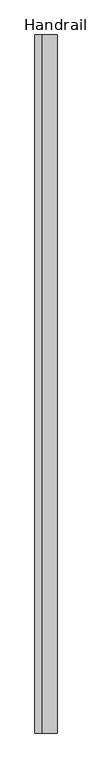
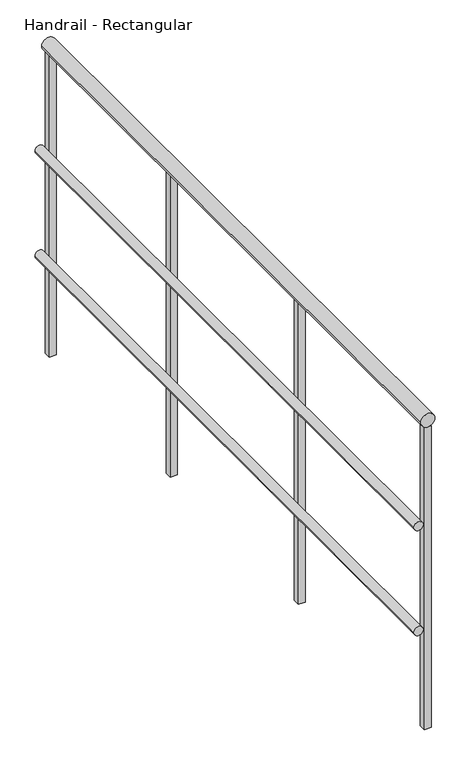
"""IFC4 building model written with IfcOpenShell, lengths in millimetres: railing geometry, Handrail - Rectangular."""

from ifc_helpers import new_model, si_unit, point, frame, frame_2d, origin, place, context, project, spatial, polyline, circle_curve, trimmed, segment, composite_curve, outline, extrude, source, transform, mapped, element, save


def handrail_rectangular_d5c45918(model_context):
    return source(origin(), model_context, "Body", "SweptSolid", [
        extrude(outline(composite_curve([segment(trimmed(circle_curve(frame_2d((9740.9, -32192.8839563)), 12.7), [point((9740.9, -32205.5839563))], [point((9740.9, -32180.1839563))], False, "CARTESIAN"), True, "CONTINUOUS"), segment(trimmed(circle_curve(frame_2d((9740.9, -32192.8839563)), 12.7), [point((9740.9, -32180.1839563))], [point((9740.9, -32205.5839563))], False, "CARTESIAN"), True, "CONTINUOUS")], self_intersect=False)), frame((0.0, -33825.9683133, 0.0), z_axis=(0.0, 1.0, 0.0), x_axis=(0.0, 0.0, 1.0)), (0.0, 0.0, 1.0), 1803.4),
        extrude(outline(composite_curve([segment(trimmed(circle_curve(frame_2d((9436.1, -32192.8839563)), 12.7), [point((9436.1, -32205.5839563))], [point((9436.1, -32180.1839563))], False, "CARTESIAN"), True, "CONTINUOUS"), segment(trimmed(circle_curve(frame_2d((9436.1, -32192.8839563)), 12.7), [point((9436.1, -32180.1839563))], [point((9436.1, -32205.5839563))], False, "CARTESIAN"), True, "CONTINUOUS")], self_intersect=False)), frame((0.0, -33825.9683133, 0.0), z_axis=(0.0, 1.0, 0.0), x_axis=(0.0, 0.0, 1.0)), (0.0, 0.0, 1.0), 1803.4),
        extrude(outline(composite_curve([segment(trimmed(circle_curve(frame_2d((10039.35, -32167.4839563)), 19.05), [point((10039.35, -32186.5339563))], [point((10039.35, -32148.4339563))], False, "CARTESIAN"), True, "CONTINUOUS"), segment(trimmed(circle_curve(frame_2d((10039.35, -32167.4839563)), 19.05), [point((10039.35, -32148.4339563))], [point((10039.35, -32186.5339563))], False, "CARTESIAN"), True, "CONTINUOUS")], self_intersect=False)), frame((0.0, -33825.9683133, 0.0), z_axis=(0.0, 1.0, 0.0), x_axis=(0.0, 0.0, 1.0)), (0.0, 0.0, 1.0), 1803.4),
        extrude(outline(polyline([(-32157.9589563, -32616.2933133), (-32177.0089563, -32616.2933133), (-32177.0089563, -32597.2433133), (-32157.9589563, -32597.2433133), (-32157.9589563, -32616.2933133)])), frame((0.0, 0.0, 9144.0), z_axis=(0.0, 0.0, 1.0), x_axis=(1.0, 0.0, 0.0)), (0.0, 0.0, 1.0), 876.3),
        extrude(outline(polyline([(-32157.9589563, -33225.8933133), (-32177.0089563, -33225.8933133), (-32177.0089563, -33206.8433133), (-32157.9589563, -33206.8433133), (-32157.9589563, -33225.8933133)])), frame((0.0, 0.0, 9144.0), z_axis=(0.0, 0.0, 1.0), x_axis=(1.0, 0.0, 0.0)), (0.0, 0.0, 1.0), 876.3),
        extrude(outline(polyline([(-32157.9589563, -32041.6183133), (-32177.0089563, -32041.6183133), (-32177.0089563, -32022.5683133), (-32157.9589563, -32022.5683133), (-32157.9589563, -32041.6183133)])), frame((0.0, 0.0, 9144.0), z_axis=(0.0, 0.0, 1.0), x_axis=(1.0, 0.0, 0.0)), (0.0, 0.0, 1.0), 876.3),
        extrude(outline(polyline([(-32157.9589563, -33825.9683133), (-32177.0089563, -33825.9683133), (-32177.0089563, -33806.9183133), (-32157.9589563, -33806.9183133), (-32157.9589563, -33825.9683133)])), frame((0.0, 0.0, 9144.0), z_axis=(0.0, 0.0, 1.0), x_axis=(1.0, 0.0, 0.0)), (0.0, 0.0, 1.0), 876.3),
    ])


if __name__ == "__main__":
    model = new_model("IFC4")
    model_context = context("Model", 3, world=origin())
    ifc_project = project(units=[si_unit("LENGTHUNIT", "METRE", prefix="MILLI")], contexts=[model_context])
    site = spatial("IfcSite", under=ifc_project)
    building = spatial("IfcBuilding", under=site)
    placement = place(None, origin())
    handrail_rectangular_shape = handrail_rectangular_d5c45918(model_context)
    element("IfcRailing", 1, ObjectType="Handrail - Rectangular", at=placement, inside=building, context=model_context, shape_type="MappedRepresentation", body=[
        mapped(handrail_rectangular_shape, transform((0.0, 0.0, 0.0), x_axis=(1.0, 0.0, 0.0), y_axis=(0.0, 1.0, 0.0), z_axis=(0.0, 0.0, 1.0))),
    ])
    save(model, "model.ifc")
